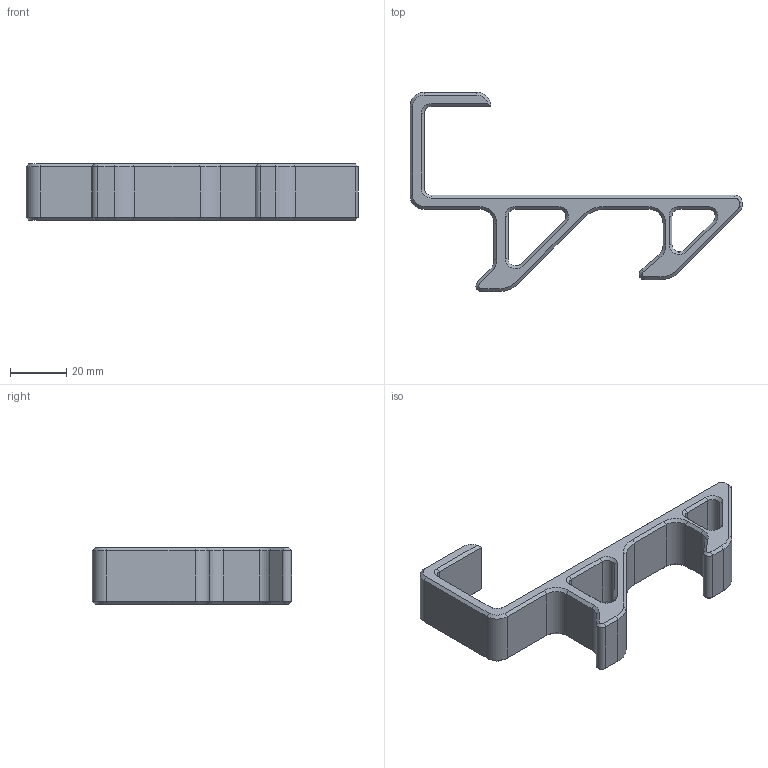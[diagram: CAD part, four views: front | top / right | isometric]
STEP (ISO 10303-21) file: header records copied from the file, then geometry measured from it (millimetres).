
FILE_DESCRIPTION(/* description */ ('Unknown','CAx-IF Rec.Pracs.---Representation and Presentation of Product Manufacturing Information (PMI)---4.0---2014-10-13','CAx-IF Rec.Pracs.---3D Tessellated Geometry---0.4---2014-09-14','2;1'),/* implementation_level */ '2;1');
FILE_NAME(/* name */ 'DoorHook_D30mm',/* time_stamp */ '2025-01-05T20:55:52+01:00',/* author */ ('Unknown'),/* organization */ ('Unknown'),/* preprocessor_version */ 'ST-DEVELOPER v19.4',/* originating_system */ 'Solid Edge',/* authorisation */ 'Unknown');
FILE_SCHEMA (('AP242_MANAGED_MODEL_BASED_3D_ENGINEERING_MIM_LF { 1 0 10303 442 1 1 4 }'));
Length unit declared in the file: millimetre
Products named in the file (1): DoorHook_D30mm
Bounding box: 117.77 x 70.7 x 20 mm (x, y, z)
Volume: 30031.2 mm3; surface area: 13691.1 mm2
Topology: 1 solids, 1 shells, 146 faces, 336 edges, 192 vertices
Faces by surface type: plane 74, cone 48, cylinder 24
Entity records: 4046 total; most frequent: DIRECTION 726, CARTESIAN_POINT 682, ORIENTED_EDGE 672, EDGE_CURVE 336, AXIS2_PLACEMENT_3D 244, LINE 238, VECTOR 238, VERTEX_POINT 192
